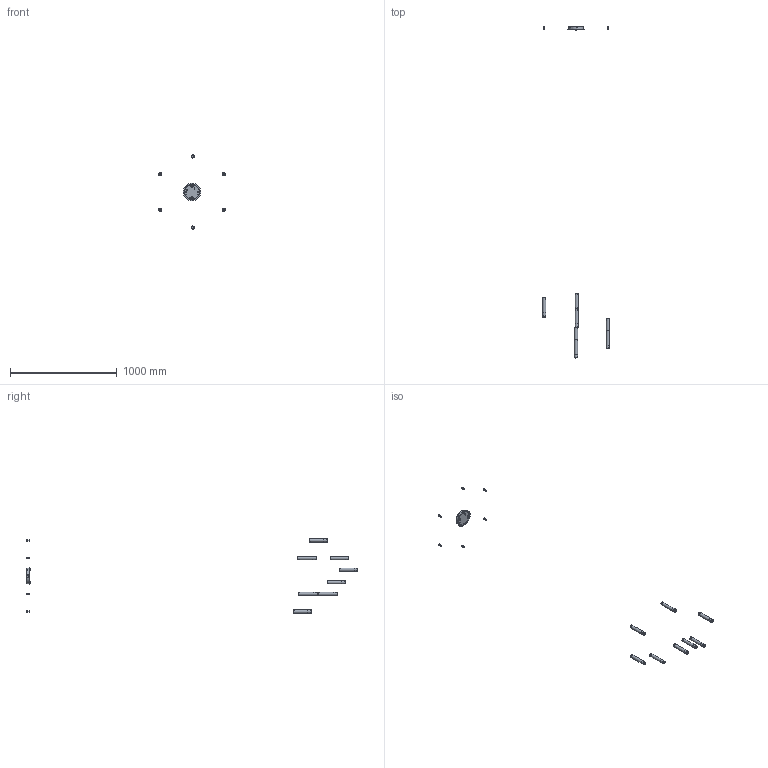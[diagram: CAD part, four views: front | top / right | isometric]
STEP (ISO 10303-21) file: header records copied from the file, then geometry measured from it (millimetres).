
FILE_DESCRIPTION(/* description */ (''),/* implementation_level */ '2;1');
FILE_NAME(/* name */ 'C:\Users\A.Cavazzi\Desktop\CAD 3D\EU\1804 - SIMBIOSI\1804 - SIMBIOSI.stp',/* time_stamp */ '2019-10-04T10:38:52+02:00',/* author */ ('AC'),/* organization */ (''),/* preprocessor_version */ 'ST-DEVELOPER v17.2',/* originating_system */ 'Autodesk Inventor 2019',/* authorisation */ '');
FILE_SCHEMA (('AUTOMOTIVE_DESIGN { 1 0 10303 214 3 1 1 }'));
Length unit declared in the file: millimetre
Products named in the file (1): Parte1
Bounding box: 628 x 3115.5 x 697.12 mm (x, y, z)
Volume: 610146.8 mm3; surface area: 410569.9 mm2
Topology: 33 solids, 45 shells, 621 faces, 1392 edges, 950 vertices
Faces by surface type: plane 292, cylinder 213, cone 94, torus 22
Full cylindrical faces by diameter (mm): 2.5 x13, 3.242 x1, 4 x2, 4.5 x7, 4.917 x6, 6.75 x2, 7 x7, 7.5 x6, 8.5 x6, 8.917 x12, 10.25 x5, 12 x15, 16 x6, 18.4 x8, 19.9 x8, 21.5 x16, 22 x8, 22.3 x16, 22.5 x8, 23 x16, 30 x8, 135 x1, 143 x1, 165 x1
Entity records: 18563 total; most frequent: DIRECTION 3430, CARTESIAN_POINT 3061, ORIENTED_EDGE 2784, AXIS2_PLACEMENT_3D 1432, EDGE_CURVE 1392, VERTEX_POINT 952, CIRCLE 810, EDGE_LOOP 760
